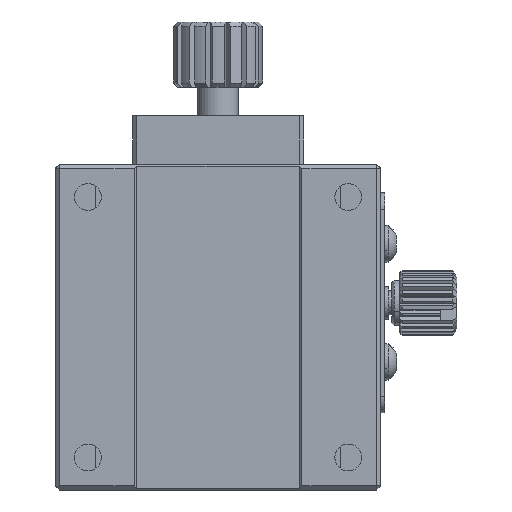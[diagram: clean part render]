
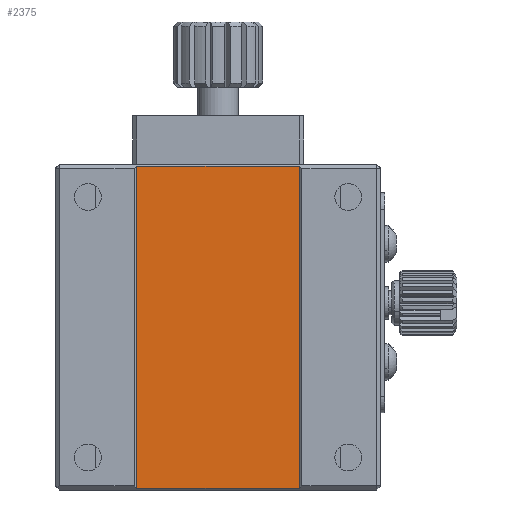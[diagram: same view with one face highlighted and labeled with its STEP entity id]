
A CAD part, front view. The second image highlights one B-rep face of the part: STEP entity #2375.
In plain terms, the highlighted planar face has unit normal (0, -1, 0).
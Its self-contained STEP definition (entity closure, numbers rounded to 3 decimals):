
#524 = VERTEX_POINT ( 'NONE', #27224 ) ;
#761 = CARTESIAN_POINT ( 'NONE',  ( 10., -4.45, -20. ) ) ;
#1013 = LINE ( 'NONE', #20129, #15241 ) ;
#2375 = ADVANCED_FACE ( 'NONE', ( #26446 ), #35074, .F. ) ;
#5342 = ORIENTED_EDGE ( 'NONE', *, *, #8512, .T. ) ;
#5955 = DIRECTION ( 'NONE',  ( 0., 0., 1. ) ) ;
#7221 = DIRECTION ( 'NONE',  ( -1., 0., 0. ) ) ;
#8512 = EDGE_CURVE ( 'NONE', #524, #33037, #29629, .T. ) ;
#9773 = CARTESIAN_POINT ( 'NONE',  ( -10., -4.45, 19.8 ) ) ;
#9777 = DIRECTION ( 'NONE',  ( -1., 0., 0. ) ) ;
#10884 = LINE ( 'NONE', #761, #18433 ) ;
#11886 = ORIENTED_EDGE ( 'NONE', *, *, #22952, .F. ) ;
#15241 = VECTOR ( 'NONE', #5955, 1000. ) ;
#16092 = EDGE_LOOP ( 'NONE', ( #11886, #5342, #28577, #31131 ) ) ;
#16480 = VERTEX_POINT ( 'NONE', #9773 ) ;
#17411 = AXIS2_PLACEMENT_3D ( 'NONE', #23793, #26772, #9777 ) ;
#17642 = EDGE_CURVE ( 'NONE', #33037, #30344, #10884, .T. ) ;
#18433 = VECTOR ( 'NONE', #20604, 1000. ) ;
#20129 = CARTESIAN_POINT ( 'NONE',  ( -10., -4.45, -20. ) ) ;
#20208 = CARTESIAN_POINT ( 'NONE',  ( -20., -4.45, -19.8 ) ) ;
#20268 = VECTOR ( 'NONE', #7221, 1000. ) ;
#20604 = DIRECTION ( 'NONE',  ( 0., 0., 1. ) ) ;
#22116 = VECTOR ( 'NONE', #25887, 1000. ) ;
#22952 = EDGE_CURVE ( 'NONE', #524, #16480, #1013, .T. ) ;
#23793 = CARTESIAN_POINT ( 'NONE',  ( 10., -4.45, -20. ) ) ;
#24214 = CARTESIAN_POINT ( 'NONE',  ( 0., -4.45, 19.8 ) ) ;
#25887 = DIRECTION ( 'NONE',  ( 1., 0., 0. ) ) ;
#26446 = FACE_OUTER_BOUND ( 'NONE', #16092, .T. ) ;
#26772 = DIRECTION ( 'NONE',  ( 0., 1., 0. ) ) ;
#27224 = CARTESIAN_POINT ( 'NONE',  ( -10., -4.45, -19.8 ) ) ;
#27794 = LINE ( 'NONE', #24214, #20268 ) ;
#28015 = CARTESIAN_POINT ( 'NONE',  ( 10., -4.45, -19.8 ) ) ;
#28577 = ORIENTED_EDGE ( 'NONE', *, *, #17642, .T. ) ;
#29629 = LINE ( 'NONE', #20208, #22116 ) ;
#30344 = VERTEX_POINT ( 'NONE', #31916 ) ;
#31131 = ORIENTED_EDGE ( 'NONE', *, *, #32325, .T. ) ;
#31916 = CARTESIAN_POINT ( 'NONE',  ( 10., -4.45, 19.8 ) ) ;
#32325 = EDGE_CURVE ( 'NONE', #30344, #16480, #27794, .T. ) ;
#33037 = VERTEX_POINT ( 'NONE', #28015 ) ;
#35074 = PLANE ( 'NONE',  #17411 ) ;
